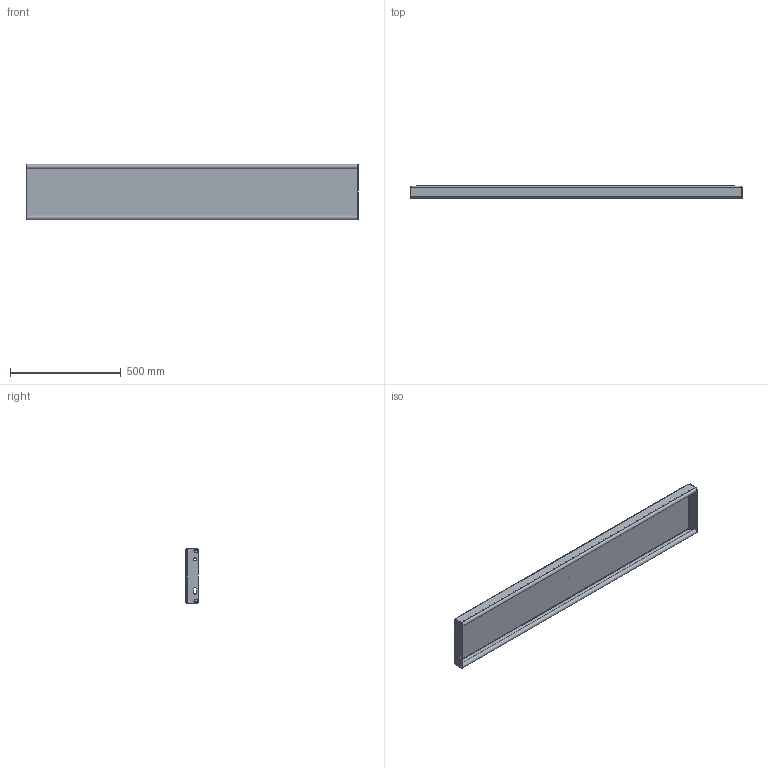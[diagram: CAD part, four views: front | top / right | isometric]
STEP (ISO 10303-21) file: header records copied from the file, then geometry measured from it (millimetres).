
FILE_DESCRIPTION (( 'STEP AP214' ), '1' );
FILE_NAME ('OPTIMO-Tread-Achil-O2-1500x250x57x2-st240-F100400100_plain.STEP', '2021-03-16T13:54:11', ( '' ), ( '' ), 'SwSTEP 2.0', 'SolidWorks 2021', '' );
FILE_SCHEMA (( 'AUTOMOTIVE_DESIGN' ));
Length unit declared in the file: millimetre
Products named in the file (1): OPTIMO-Tread-Achil-O2-1500x250x57x2-st240-F100400100_plain
Bounding box: 1500 x 57 x 250 mm (x, y, z)
Volume: 2376042.1 mm3; surface area: 1350985.9 mm2
Topology: 1 solids, 1 shells, 248 faces, 640 edges, 412 vertices
Faces by surface type: plane 173, bspline 39, cylinder 36
Entity records: 9924 total; most frequent: CARTESIAN_POINT 4092, ORIENTED_EDGE 1280, DIRECTION 1022, EDGE_CURVE 640, VECTOR 490, LINE 490, VERTEX_POINT 412, EDGE_LOOP 274
